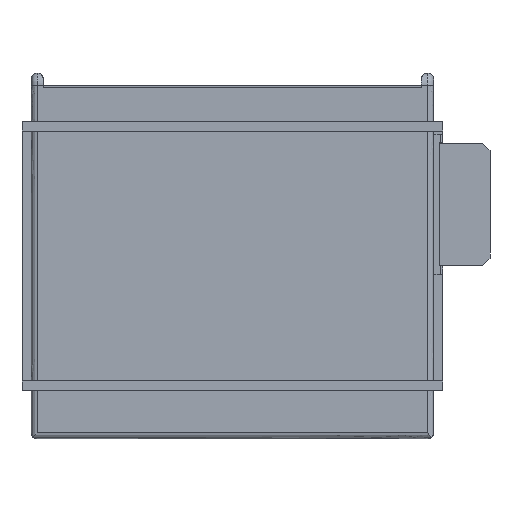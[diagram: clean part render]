
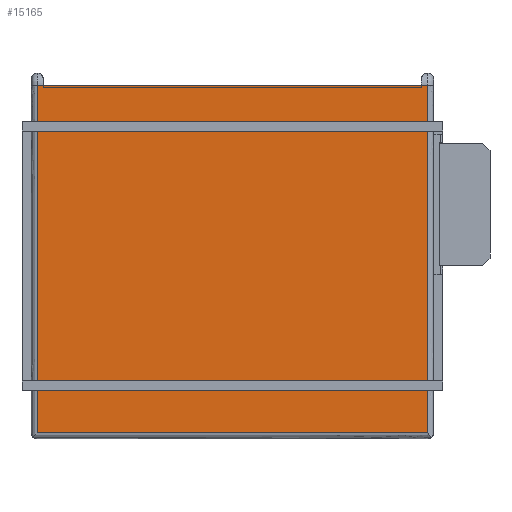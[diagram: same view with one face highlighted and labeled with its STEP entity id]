
A CAD part, front view. The second image highlights one B-rep face of the part: STEP entity #15165.
In plain terms, the highlighted free-form (B-spline) face has degree [1, 1] with [2, 2] control points.
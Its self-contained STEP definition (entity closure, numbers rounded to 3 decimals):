
#1547 = EDGE_LOOP ( 'NONE', ( #35622, #5319, #5815, #47976, #43702, #12081 ) ) ;
#1702 = CARTESIAN_POINT ( 'NONE',  ( 406.4, -241.3, 0. ) ) ;
#2749 = CARTESIAN_POINT ( 'NONE',  ( -393.7, -241.3, 723.9 ) ) ;
#3244 = EDGE_CURVE ( 'NONE', #27798, #34300, #47996, .T. ) ;
#5319 = ORIENTED_EDGE ( 'NONE', *, *, #41578, .F. ) ;
#5722 = CARTESIAN_POINT ( 'NONE',  ( -406.4, -241.3, 0. ) ) ;
#5815 = ORIENTED_EDGE ( 'NONE', *, *, #42606, .T. ) ;
#6654 = EDGE_CURVE ( 'NONE', #34300, #42375, #49253, .T. ) ;
#8404 = EDGE_CURVE ( 'NONE', #42375, #12838, #18045, .T. ) ;
#11074 = CARTESIAN_POINT ( 'NONE',  ( 406.4, -241.3, 0. ) ) ;
#11157 = VERTEX_POINT ( 'NONE', #27944 ) ;
#11413 = CARTESIAN_POINT ( 'NONE',  ( -393.7, -241.3, 723.9 ) ) ;
#11608 = CARTESIAN_POINT ( 'NONE',  ( -406.4, -241.3, 0. ) ) ;
#12081 = ORIENTED_EDGE ( 'NONE', *, *, #3244, .F. ) ;
#12090 = CARTESIAN_POINT ( 'NONE',  ( 393.7, -241.3, 723.9 ) ) ;
#12838 = VERTEX_POINT ( 'NONE', #36703 ) ;
#13738 = CARTESIAN_POINT ( 'NONE',  ( 406.4, -241.3, 0. ) ) ;
#14961 = B_SPLINE_CURVE_WITH_KNOTS ( 'NONE', 1,
 ( #11413, #39623 ),
 .UNSPECIFIED., .F., .F.,
 ( 2, 2 ),
 ( 0., 1. ),
 .UNSPECIFIED. ) ;
#15079 = CARTESIAN_POINT ( 'NONE',  ( -406.4, -241.3, 723.9 ) ) ;
#15165 = ADVANCED_FACE ( 'NONE', ( #37688 ), #26738, .F. ) ;
#18045 = B_SPLINE_CURVE_WITH_KNOTS ( 'NONE', 1,
 ( #18449, #41867 ),
 .UNSPECIFIED., .F., .F.,
 ( 2, 2 ),
 ( 0., 0.982 ),
 .UNSPECIFIED. ) ;
#18449 = CARTESIAN_POINT ( 'NONE',  ( -406.4, -241.3, 0. ) ) ;
#19018 = CARTESIAN_POINT ( 'NONE',  ( -406.4, -241.3, 723.9 ) ) ;
#21720 = CARTESIAN_POINT ( 'NONE',  ( 406.4, -241.3, 723.9 ) ) ;
#21760 = EDGE_CURVE ( 'NONE', #38294, #27798, #32350, .T. ) ;
#26404 = CARTESIAN_POINT ( 'NONE',  ( 393.7, -241.3, 723.9 ) ) ;
#26738 = B_SPLINE_SURFACE_WITH_KNOTS ( 'NONE', 1, 1, ( 
 ( #51542, #11074 ),
 ( #15079, #28089 ) ),
 .UNSPECIFIED., .F., .F., .F.,
 ( 2, 2 ),
 ( 2, 2 ),
 ( 0., 1. ),
 ( 0., 1. ),
 .UNSPECIFIED. ) ;
#27798 = VERTEX_POINT ( 'NONE', #49579 ) ;
#27944 = CARTESIAN_POINT ( 'NONE',  ( -393.7, -241.3, 723.9 ) ) ;
#28089 = CARTESIAN_POINT ( 'NONE',  ( 406.4, -241.3, 723.9 ) ) ;
#29445 = B_SPLINE_CURVE_WITH_KNOTS ( 'NONE', 1,
 ( #2749, #19018 ),
 .UNSPECIFIED., .F., .F.,
 ( 2, 2 ),
 ( 0., 1. ),
 .UNSPECIFIED. ) ;
#32350 = B_SPLINE_CURVE_WITH_KNOTS ( 'NONE', 1,
 ( #12090, #48816 ),
 .UNSPECIFIED., .F., .F.,
 ( 2, 2 ),
 ( 0., 1. ),
 .UNSPECIFIED. ) ;
#34300 = VERTEX_POINT ( 'NONE', #48525 ) ;
#35622 = ORIENTED_EDGE ( 'NONE', *, *, #21760, .F. ) ;
#36703 = CARTESIAN_POINT ( 'NONE',  ( -406.4, -241.3, 723.9 ) ) ;
#37688 = FACE_OUTER_BOUND ( 'NONE', #1547, .T. ) ;
#38294 = VERTEX_POINT ( 'NONE', #26404 ) ;
#39623 = CARTESIAN_POINT ( 'NONE',  ( 393.7, -241.3, 723.9 ) ) ;
#41578 = EDGE_CURVE ( 'NONE', #11157, #38294, #14961, .T. ) ;
#41867 = CARTESIAN_POINT ( 'NONE',  ( -406.4, -241.3, 723.9 ) ) ;
#42375 = VERTEX_POINT ( 'NONE', #11608 ) ;
#42606 = EDGE_CURVE ( 'NONE', #11157, #12838, #29445, .T. ) ;
#43702 = ORIENTED_EDGE ( 'NONE', *, *, #6654, .F. ) ;
#47976 = ORIENTED_EDGE ( 'NONE', *, *, #8404, .F. ) ;
#47996 = B_SPLINE_CURVE_WITH_KNOTS ( 'NONE', 1,
 ( #21720, #1702 ),
 .UNSPECIFIED., .F., .F.,
 ( 2, 2 ),
 ( 0., 1. ),
 .UNSPECIFIED. ) ;
#48525 = CARTESIAN_POINT ( 'NONE',  ( 406.4, -241.3, 0. ) ) ;
#48816 = CARTESIAN_POINT ( 'NONE',  ( 406.4, -241.3, 723.9 ) ) ;
#49253 = B_SPLINE_CURVE_WITH_KNOTS ( 'NONE', 1,
 ( #13738, #5722 ),
 .UNSPECIFIED., .F., .F.,
 ( 2, 2 ),
 ( 0., 0.967 ),
 .UNSPECIFIED. ) ;
#49579 = CARTESIAN_POINT ( 'NONE',  ( 406.4, -241.3, 723.9 ) ) ;
#51542 = CARTESIAN_POINT ( 'NONE',  ( -406.4, -241.3, 0. ) ) ;
